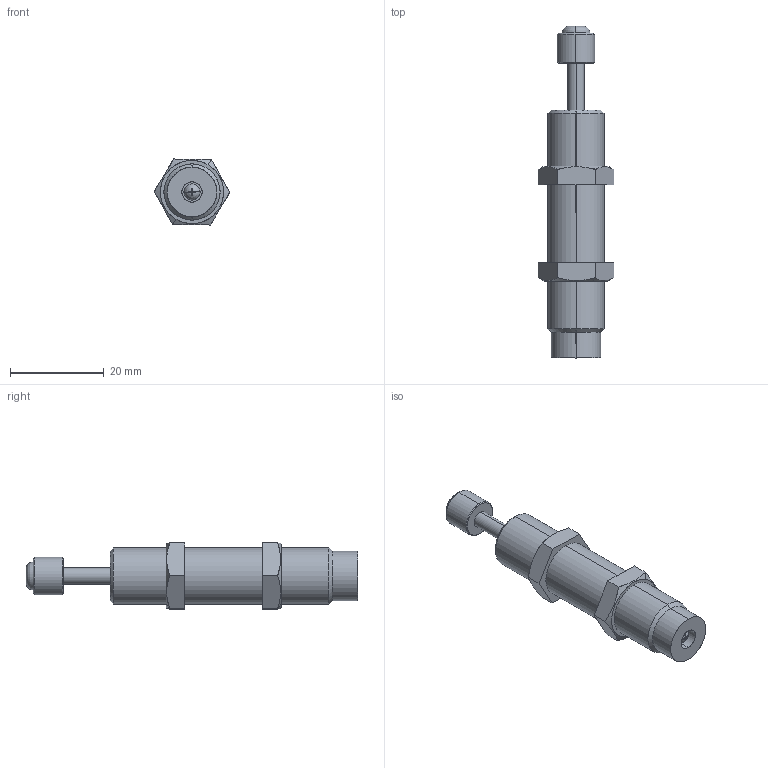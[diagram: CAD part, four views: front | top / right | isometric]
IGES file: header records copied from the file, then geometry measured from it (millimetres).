
Start section: SolidWorks IGES file using analytic representation for surfaces
Bounding box: 16.16 x 71 x 14.13 mm (x, y, z)
Surface area: 3724.2 mm2 (no closed solid volume)
Topology: 0 solids, 0 shells, 89 faces, 1374 edges, 1374 vertices
Faces by surface type: revolution 50, bspline 39
